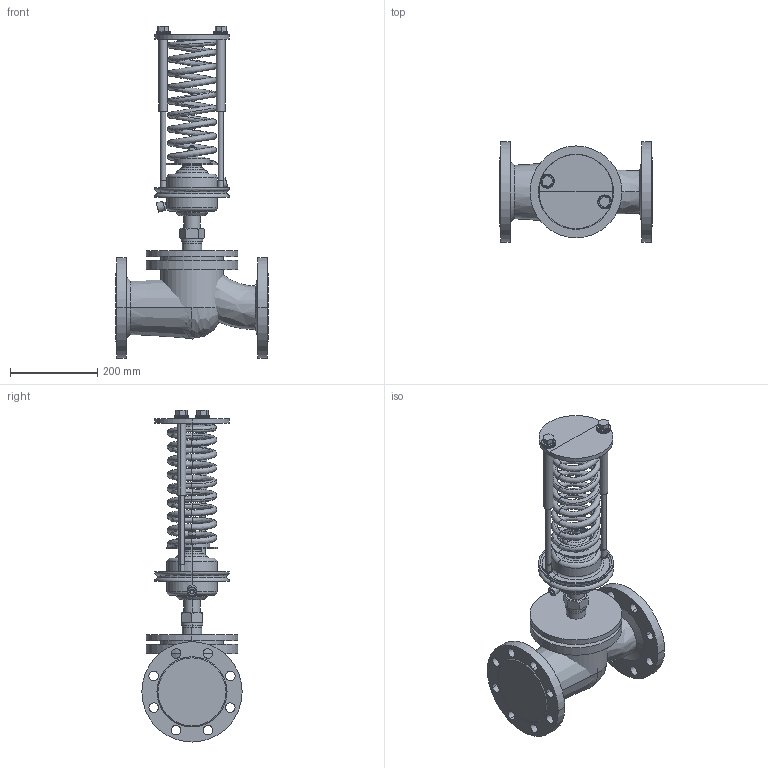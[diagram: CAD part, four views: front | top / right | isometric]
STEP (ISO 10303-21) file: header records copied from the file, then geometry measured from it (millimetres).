
FILE_DESCRIPTION(/* description */ (''),/* implementation_level */ '2;1');
FILE_NAME(/* name */ 'ETM_Регулятордавления_УРРД_НЗ_РД_DN100_PN25 0.05—0.3 МПа',/* time_stamp */ '2026-04-27T12:29:38+03:00',/* author */ (''),/* organization */ (''),/* preprocessor_version */ 'ST-DEVELOPER v20',/* originating_system */ '',/* authorisation */ '');
FILE_SCHEMA (('AP242_MANAGED_MODEL_BASED_3D_ENGINEERING_MIM_LF { 1 0 10303 442 1 1 4 }'));
Length unit declared in the file: millimetre
Products named in the file (13): TopLevelAssembly; Выдавливание; Переход; Выдавливание_
1; Переход_1; Переход_2; Переход_3; Объемная геометрия 
присоединена; Выдавливание_
2; Выдавливание_
3; Объемная геометрия 
присоединена_1; Выдавливание_
4; Пружина красная
Assembly tree (12 placements, depth 2):
  TopLevelAssembly
    Выдавливание
    Переход
    Выдавливание_
1
    Переход_1
    Переход_2
    Переход_3
    Объемная геометрия 
присоединена
    Выдавливание_
2
    Выдавливание_
3
    Объемная геометрия 
присоединена_1
    Выдавливание_
4
    Пружина красная
Bounding box: 350 x 230 x 761.15 mm (x, y, z)
Volume: 11102010.9 mm3; surface area: 1178603.8 mm2
Topology: 31 solids, 31 shells, 522 faces, 1053 edges, 573 vertices
Faces by surface type: plane 181, bspline 177, cylinder 154, cone 10
Entity records: 16710 total; most frequent: CARTESIAN_POINT 5365, DIRECTION 2393, ORIENTED_EDGE 2102, EDGE_CURVE 1051, AXIS2_PLACEMENT_3D 1006, CIRCLE 635, VERTEX_POINT 573, EDGE_LOOP 560
